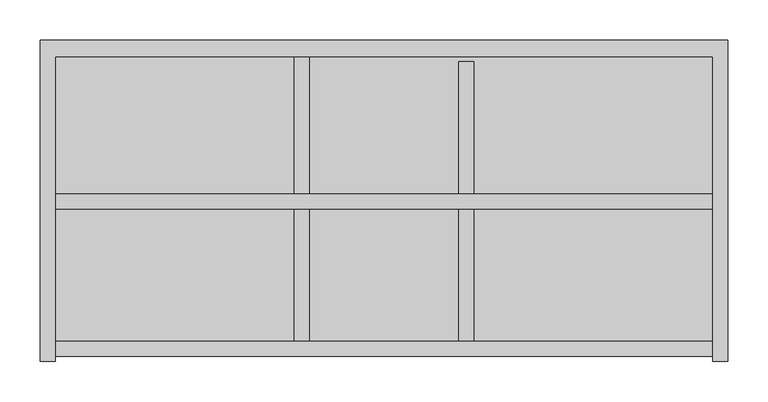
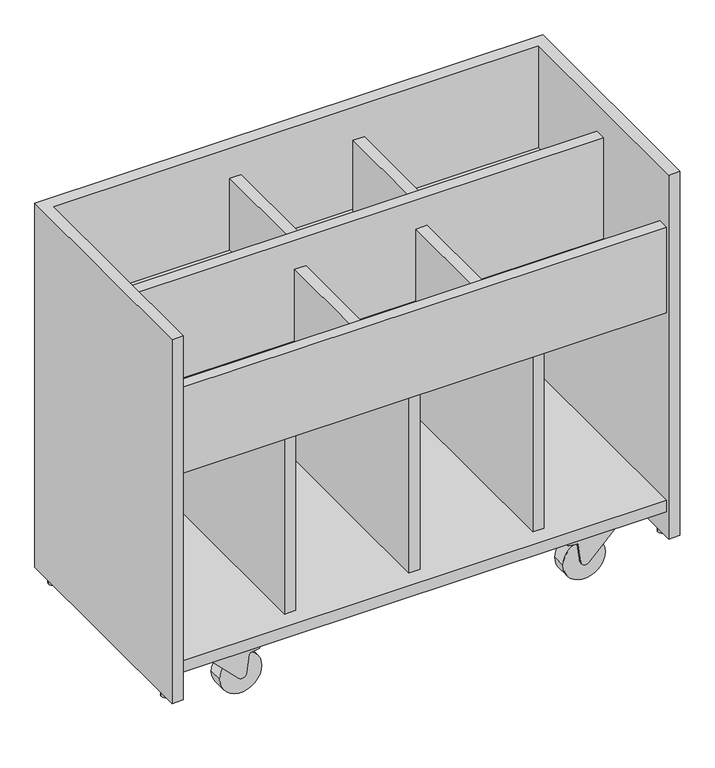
"""IFC4 building model written with IfcOpenShell, lengths in millimetres: furniture geometry, BK Library - Sandviken - Bookbrowser : BK Library - Sandviken - Bookbrowser."""

from ifc_helpers import new_model, si_unit, point, frame, frame_2d, origin, place, context, project, spatial, polyline, circle_curve, trimmed, segment, composite_curve, outline, extrude, faceted_brep, source, transform, mapped, element, save


def furniture_dce0b0f9(model_context):
    return source(origin(), model_context, "Body", "SolidModel", [
        extrude(outline(composite_curve([segment(trimmed(circle_curve(frame_2d((-419.5139404, -164.9857086)), 7.4880908), [point((-427.0020311, -164.9857086))], [point((-412.0258496, -164.9857086))], False, "CARTESIAN"), True, "CONTINUOUS"), segment(trimmed(circle_curve(frame_2d((-419.5139404, -164.9857086)), 7.4880908), [point((-412.0258496, -164.9857086))], [point((-427.0020311, -164.9857086))], False, "CARTESIAN"), True, "CONTINUOUS")], self_intersect=False)), frame((0.0, 0.0, 43.9690337), z_axis=(0.0, 0.0, 1.0), x_axis=(1.0, 0.0, 0.0)), (0.0, 0.0, 1.0), 8.5),
        extrude(outline(composite_curve([segment(trimmed(circle_curve(frame_2d((419.5139404, -164.9857086)), 7.4880908), [point((412.0258496, -164.9857086))], [point((427.0020311, -164.9857086))], False, "CARTESIAN"), True, "CONTINUOUS"), segment(trimmed(circle_curve(frame_2d((419.5139404, -164.9857086)), 7.4880908), [point((427.0020311, -164.9857086))], [point((412.0258496, -164.9857086))], False, "CARTESIAN"), True, "CONTINUOUS")], self_intersect=False)), frame((0.0, 0.0, 43.9690337), z_axis=(0.0, 0.0, 1.0), x_axis=(1.0, 0.0, 0.0)), (0.0, 0.0, 1.0), 8.5),
        extrude(outline(composite_curve([segment(trimmed(circle_curve(frame_2d((-419.5139404, 164.9857086)), 7.4880908), [point((-427.0020311, 164.9857086))], [point((-412.0258496, 164.9857086))], False, "CARTESIAN"), True, "CONTINUOUS"), segment(trimmed(circle_curve(frame_2d((-419.5139404, 164.9857086)), 7.4880908), [point((-412.0258496, 164.9857086))], [point((-427.0020311, 164.9857086))], False, "CARTESIAN"), True, "CONTINUOUS")], self_intersect=False)), frame((0.0, 0.0, 43.9690337), z_axis=(0.0, 0.0, 1.0), x_axis=(1.0, 0.0, 0.0)), (0.0, 0.0, 1.0), 8.5),
        extrude(outline(composite_curve([segment(trimmed(circle_curve(frame_2d((419.5139404, 164.9857086)), 7.4880908), [point((412.0258496, 164.9857086))], [point((427.0020311, 164.9857086))], False, "CARTESIAN"), True, "CONTINUOUS"), segment(trimmed(circle_curve(frame_2d((419.5139404, 164.9857086)), 7.4880908), [point((427.0020311, 164.9857086))], [point((412.0258496, 164.9857086))], False, "CARTESIAN"), True, "CONTINUOUS")], self_intersect=False)), frame((0.0, 0.0, 43.9690337), z_axis=(0.0, 0.0, 1.0), x_axis=(1.0, 0.0, 0.0)), (0.0, 0.0, 1.0), 8.5),
        extrude(outline(composite_curve([segment(trimmed(circle_curve(frame_2d((-325.2477132, 148.3932813)), 12.5248147), [point((-337.7725279, 148.3932813))], [point((-312.7228985, 148.3932813))], False, "CARTESIAN"), True, "CONTINUOUS"), segment(trimmed(circle_curve(frame_2d((-325.2477132, 148.3932813)), 12.5248147), [point((-312.7228985, 148.3932813))], [point((-337.7725279, 148.3932813))], False, "CARTESIAN"), True, "CONTINUOUS")], self_intersect=False)), frame((0.0, 0.0, 87.7), z_axis=(0.0, 0.0, 1.0), x_axis=(1.0, 0.0, 0.0)), (0.0, 0.0, 1.0), 9.3),
        extrude(outline(composite_curve([segment(polyline([(72.665374, -260.3370102), (88.2, -260.3370102), (88.2, -346.8355235), (80.4985188, -346.8355235), (29.8327739, -295.9834735)]), True, "CONTINUOUS"), segment(trimmed(circle_curve(frame_2d((35.5, -290.3370102)), 8.0), [point((29.8327739, -295.9834735))], [point((34.4278369, -282.4091816))], False, "CARTESIAN"), True, "CONTINUOUS"), segment(polyline([(34.4278369, -282.4091816), (66.4454242, -278.0791088)]), True, "CONTINUOUS"), segment(trimmed(circle_curve(frame_2d((66.1773834, -276.0971516)), 2.0), [point((66.4454242, -278.0791088))], [point((68.1469989, -276.444448))], True, "CARTESIAN"), True, "CONTINUOUS"), segment(polyline([(68.1469989, -276.444448), (70.6957585, -261.9897138)]), True, "CONTINUOUS"), segment(trimmed(circle_curve(frame_2d((72.665374, -262.3370102)), 2.0), [point((70.6957585, -261.9897138))], [point((72.665374, -260.3370102))], False, "CARTESIAN"), True, "CONTINUOUS")], self_intersect=False)), frame((0.0, 132.3464324, 0.0), z_axis=(0.0, 1.0, 0.0), x_axis=(0.0, 0.0, 1.0)), (0.0, 0.0, 1.0), 32.0),
        extrude(outline(composite_curve([segment(trimmed(circle_curve(frame_2d((35.6872146, -290.2334387)), 35.6947525), [point((35.6872146, -254.5386862))], [point((35.6872146, -325.9281911))], False, "CARTESIAN"), True, "CONTINUOUS"), segment(trimmed(circle_curve(frame_2d((35.6872146, -290.2334387)), 35.6947525), [point((35.6872146, -325.9281911))], [point((35.6872146, -254.5386862))], False, "CARTESIAN"), True, "CONTINUOUS")], self_intersect=False)), frame((0.0, 136.3464324, 0.0), z_axis=(0.0, 1.0, 0.0), x_axis=(0.0, 0.0, 1.0)), (0.0, 0.0, 1.0), 24.0),
        extrude(outline(composite_curve([segment(trimmed(circle_curve(frame_2d((325.2477132, 148.3932813)), 12.5248147), [point((337.7725279, 148.3932813))], [point((312.7228985, 148.3932813))], False, "CARTESIAN"), True, "CONTINUOUS"), segment(trimmed(circle_curve(frame_2d((325.2477132, 148.3932813)), 12.5248147), [point((312.7228985, 148.3932813))], [point((337.7725279, 148.3932813))], False, "CARTESIAN"), True, "CONTINUOUS")], self_intersect=False)), frame((0.0, 0.0, 87.7), z_axis=(0.0, 0.0, 1.0), x_axis=(1.0, 0.0, 0.0)), (0.0, 0.0, 1.0), 9.3),
        extrude(outline(composite_curve([segment(trimmed(circle_curve(frame_2d((72.665374, 262.3370102)), 2.0), [point((72.665374, 260.3370102))], [point((70.6957585, 261.9897138))], False, "CARTESIAN"), True, "CONTINUOUS"), segment(polyline([(70.6957585, 261.9897138), (68.1469989, 276.444448)]), True, "CONTINUOUS"), segment(trimmed(circle_curve(frame_2d((66.1773834, 276.0971516)), 2.0), [point((68.1469989, 276.444448))], [point((66.4454242, 278.0791088))], True, "CARTESIAN"), True, "CONTINUOUS"), segment(polyline([(66.4454242, 278.0791088), (34.4278369, 282.4091816)]), True, "CONTINUOUS"), segment(trimmed(circle_curve(frame_2d((35.5, 290.3370102)), 8.0), [point((34.4278369, 282.4091816))], [point((29.8327739, 295.9834735))], False, "CARTESIAN"), True, "CONTINUOUS"), segment(polyline([(29.8327739, 295.9834735), (80.4985188, 346.8355235), (88.2, 346.8355235), (88.2, 260.3370102), (72.665374, 260.3370102)]), True, "CONTINUOUS")], self_intersect=False)), frame((0.0, 132.3464324, 0.0), z_axis=(0.0, 1.0, 0.0), x_axis=(0.0, 0.0, 1.0)), (0.0, 0.0, 1.0), 32.0),
        extrude(outline(composite_curve([segment(trimmed(circle_curve(frame_2d((35.6872146, 290.2334387)), 35.6947525), [point((35.6872146, 254.5386862))], [point((35.6872146, 325.9281911))], False, "CARTESIAN"), True, "CONTINUOUS"), segment(trimmed(circle_curve(frame_2d((35.6872146, 290.2334387)), 35.6947525), [point((35.6872146, 325.9281911))], [point((35.6872146, 254.5386862))], False, "CARTESIAN"), True, "CONTINUOUS")], self_intersect=False)), frame((0.0, 136.3464324, 0.0), z_axis=(0.0, 1.0, 0.0), x_axis=(0.0, 0.0, 1.0)), (0.0, 0.0, 1.0), 24.0),
        extrude(outline(composite_curve([segment(trimmed(circle_curve(frame_2d((325.2477132, -148.3932813)), 12.5248147), [point((337.7725279, -148.3932813))], [point((312.7228985, -148.3932813))], False, "CARTESIAN"), True, "CONTINUOUS"), segment(trimmed(circle_curve(frame_2d((325.2477132, -148.3932813)), 12.5248147), [point((312.7228985, -148.3932813))], [point((337.7725279, -148.3932813))], False, "CARTESIAN"), True, "CONTINUOUS")], self_intersect=False)), frame((0.0, 0.0, 87.7), z_axis=(0.0, 0.0, 1.0), x_axis=(1.0, 0.0, 0.0)), (0.0, 0.0, 1.0), 9.3),
        extrude(outline(composite_curve([segment(trimmed(circle_curve(frame_2d((72.665374, 262.3370102)), 2.0), [point((72.665374, 260.3370102))], [point((70.6957585, 261.9897138))], False, "CARTESIAN"), True, "CONTINUOUS"), segment(polyline([(70.6957585, 261.9897138), (68.1469989, 276.444448)]), True, "CONTINUOUS"), segment(trimmed(circle_curve(frame_2d((66.1773834, 276.0971516)), 2.0), [point((68.1469989, 276.444448))], [point((66.4454242, 278.0791088))], True, "CARTESIAN"), True, "CONTINUOUS"), segment(polyline([(66.4454242, 278.0791088), (34.4278369, 282.4091816)]), True, "CONTINUOUS"), segment(trimmed(circle_curve(frame_2d((35.5, 290.3370102)), 8.0), [point((34.4278369, 282.4091816))], [point((29.8327739, 295.9834735))], False, "CARTESIAN"), True, "CONTINUOUS"), segment(polyline([(29.8327739, 295.9834735), (80.4985188, 346.8355235), (88.2, 346.8355235), (88.2, 260.3370102), (72.665374, 260.3370102)]), True, "CONTINUOUS")], self_intersect=False)), frame((0.0, -164.3464324, 0.0), z_axis=(0.0, 1.0, 0.0), x_axis=(0.0, 0.0, 1.0)), (0.0, 0.0, 1.0), 32.0),
        extrude(outline(composite_curve([segment(trimmed(circle_curve(frame_2d((35.6872146, 290.2334387)), 35.6947525), [point((35.6872146, 254.5386862))], [point((35.6872146, 325.9281911))], False, "CARTESIAN"), True, "CONTINUOUS"), segment(trimmed(circle_curve(frame_2d((35.6872146, 290.2334387)), 35.6947525), [point((35.6872146, 325.9281911))], [point((35.6872146, 254.5386862))], False, "CARTESIAN"), True, "CONTINUOUS")], self_intersect=False)), frame((0.0, -160.3464324, 0.0), z_axis=(0.0, 1.0, 0.0), x_axis=(0.0, 0.0, 1.0)), (0.0, 0.0, 1.0), 24.0),
        extrude(outline(polyline([(-200.25, 180.5), (-200.25, -165.5), (-219.25, -165.5), (-219.25, 180.5), (-200.25, 180.5)])), frame((0.0, 0.0, 117.9690337), z_axis=(0.0, 0.0, 1.0), x_axis=(1.0, 0.0, 0.0)), (0.0, 0.0, 1.0), 334.5),
        extrude(outline(polyline([(9.5, -165.5), (-9.5, -165.5), (-9.5, 180.5), (9.5, 180.5), (9.5, -165.5)])), frame((0.0, 0.0, 117.9690337), z_axis=(0.0, 0.0, 1.0), x_axis=(1.0, 0.0, 0.0)), (0.0, 0.0, 1.0), 334.5),
        extrude(outline(polyline([(219.25, -165.5), (200.25, -165.5), (200.25, 180.5), (219.25, 180.5), (219.25, -165.5)])), frame((0.0, 0.0, 117.9690337), z_axis=(0.0, 0.0, 1.0), x_axis=(1.0, 0.0, 0.0)), (0.0, 0.0, 1.0), 334.5),
        extrude(outline(polyline([(-93.0, 180.5), (-93.0, 9.5), (-112.0, 9.5), (-112.0, 180.5), (-93.0, 180.5)])), frame((0.0, 0.0, 520.4690337), z_axis=(0.0, 0.0, 1.0), x_axis=(1.0, 0.0, 0.0)), (0.0, 0.0, 1.0), 128.0),
        extrude(outline(polyline([(112.0, 9.5), (93.0, 9.5), (93.0, 174.5), (112.0, 174.5), (112.0, 9.5)])), frame((0.0, 0.0, 520.4690337), z_axis=(0.0, 0.0, 1.0), x_axis=(1.0, 0.0, 0.0)), (0.0, 0.0, 1.0), 128.0),
        extrude(outline(polyline([(-93.0, -9.5), (-93.0, -174.5), (-112.0, -174.5), (-112.0, -9.5), (-93.0, -9.5)])), frame((0.0, 0.0, 473.4690337), z_axis=(0.0, 0.0, 1.0), x_axis=(1.0, 0.0, 0.0)), (0.0, 0.0, 1.0), 128.0),
        extrude(outline(polyline([(112.0, -174.5), (93.0, -174.5), (93.0, -9.5), (112.0, -9.5), (112.0, -174.5)])), frame((0.0, 0.0, 473.4690337), z_axis=(0.0, 0.0, 1.0), x_axis=(1.0, 0.0, 0.0)), (0.0, 0.0, 1.0), 128.0),
        extrude(outline(composite_curve([segment(trimmed(circle_curve(frame_2d((-325.2477132, -148.3932813)), 12.5248147), [point((-337.7725279, -148.3932813))], [point((-312.7228985, -148.3932813))], False, "CARTESIAN"), True, "CONTINUOUS"), segment(trimmed(circle_curve(frame_2d((-325.2477132, -148.3932813)), 12.5248147), [point((-312.7228985, -148.3932813))], [point((-337.7725279, -148.3932813))], False, "CARTESIAN"), True, "CONTINUOUS")], self_intersect=False)), frame((0.0, 0.0, 87.7), z_axis=(0.0, 0.0, 1.0), x_axis=(1.0, 0.0, 0.0)), (0.0, 0.0, 1.0), 9.3),
        extrude(outline(composite_curve([segment(polyline([(72.665374, -260.3370102), (88.2, -260.3370102), (88.2, -346.8355235), (80.4985188, -346.8355235), (29.8327739, -295.9834735)]), True, "CONTINUOUS"), segment(trimmed(circle_curve(frame_2d((35.5, -290.3370102)), 8.0), [point((29.8327739, -295.9834735))], [point((34.4278369, -282.4091816))], False, "CARTESIAN"), True, "CONTINUOUS"), segment(polyline([(34.4278369, -282.4091816), (66.4454242, -278.0791088)]), True, "CONTINUOUS"), segment(trimmed(circle_curve(frame_2d((66.1773834, -276.0971516)), 2.0), [point((66.4454242, -278.0791088))], [point((68.1469989, -276.444448))], True, "CARTESIAN"), True, "CONTINUOUS"), segment(polyline([(68.1469989, -276.444448), (70.6957585, -261.9897138)]), True, "CONTINUOUS"), segment(trimmed(circle_curve(frame_2d((72.665374, -262.3370102)), 2.0), [point((70.6957585, -261.9897138))], [point((72.665374, -260.3370102))], False, "CARTESIAN"), True, "CONTINUOUS")], self_intersect=False)), frame((0.0, -164.3464324, 0.0), z_axis=(0.0, 1.0, 0.0), x_axis=(0.0, 0.0, 1.0)), (0.0, 0.0, 1.0), 32.0),
        extrude(outline(composite_curve([segment(trimmed(circle_curve(frame_2d((35.6872146, -290.2334387)), 35.6947525), [point((35.6872146, -254.5386862))], [point((35.6872146, -325.9281911))], False, "CARTESIAN"), True, "CONTINUOUS"), segment(trimmed(circle_curve(frame_2d((35.6872146, -290.2334387)), 35.6947525), [point((35.6872146, -325.9281911))], [point((35.6872146, -254.5386862))], False, "CARTESIAN"), True, "CONTINUOUS")], self_intersect=False)), frame((0.0, -160.3464324, 0.0), z_axis=(0.0, 1.0, 0.0), x_axis=(0.0, 0.0, 1.0)), (0.0, 0.0, 1.0), 24.0),
        extrude(outline(polyline([(410.0, 180.5), (410.0, -193.5), (-410.0, -193.5), (-410.0, 180.5), (410.0, 180.5)])), frame((0.0, 0.0, 97.0), z_axis=(0.0, 0.0, 1.0), x_axis=(1.0, 0.0, 0.0)), (0.0, 0.0, 1.0), 20.9690337),
        extrude(outline(polyline([(180.5, 454.4690337), (-174.5, 454.4690337), (-174.5, 473.4690337), (-9.5, 473.4690337), (-9.5, 653.4690337), (9.5, 653.4690337), (9.5, 520.4690337), (180.5, 520.4690337), (180.5, 454.4690337)])), frame((-410.0, 0.0, 0.0), z_axis=(1.0, 0.0, 0.0), x_axis=(0.0, 1.0, 0.0)), (0.0, 0.0, 1.0), 820.0),
        faceted_brep([(-410.0, -200.0, 52.4690337), (-410.0, 201.5, 52.4690337), (-410.0, 201.5, 97.0), (-410.0, 180.5, 97.0), (-410.0, 180.5, 702.4690337), (-410.0, -200.0, 702.4690337), (-410.0, -174.5, 605.4690337), (-410.0, -174.5, 452.4690337), (-410.0, -193.5, 452.4690337), (-410.0, -193.5, 605.4690337), (-429.0, -200.0, 52.4690337), (-429.0, -200.0, 702.4690337), (-429.0, 201.5, 702.4690337), (-429.0, 201.5, 52.4690337), (429.0, 201.5, 702.4690337), (429.0, 201.5, 52.4690337), (410.0, 201.5, 52.4690337), (410.0, 201.5, 97.0), (410.0, 180.5, 702.4690337), (410.0, -200.0, 702.4690337), (429.0, -200.0, 702.4690337), (410.0, 180.5, 97.0), (410.0, -174.5, 452.4690337), (410.0, -174.5, 605.4690337), (410.0, -193.5, 605.4690337), (410.0, -193.5, 452.4690337), (410.0, -200.0, 52.4690337), (429.0, -200.0, 52.4690337)], [[[0, 1, 2, 3, 4, 5], [6, 7, 8, 9]], [[10, 11, 12, 13]], [[1, 0, 10, 13]], [[13, 12, 14, 15, 16, 17, 2, 1]], [[14, 12, 11, 5, 4, 18, 19, 20]], [[0, 5, 11, 10]], [[18, 4, 3, 21]], [[21, 3, 2, 17]], [[22, 7, 6, 23]], [[23, 6, 9, 24]], [[24, 9, 8, 25]], [[7, 22, 25, 8]], [[26, 19, 18, 21, 17, 16], [22, 23, 24, 25]], [[27, 15, 14, 20]], [[26, 16, 15, 27]], [[19, 26, 27, 20]]]),
    ])


if __name__ == "__main__":
    model = new_model("IFC4")
    model_context = context("Model", 3, world=origin())
    ifc_project = project(units=[si_unit("LENGTHUNIT", "METRE", prefix="MILLI")], contexts=[model_context])
    site = spatial("IfcSite", under=ifc_project)
    building = spatial("IfcBuilding", under=site)
    placement = place(None, origin())
    furniture_shape = furniture_dce0b0f9(model_context)
    element("IfcFurniture", 1, ObjectType="BK Library - Sandviken - Bookbrowser : BK Library - Sandviken - Bookbrowser", at=placement, inside=building, context=model_context, shape_type="MappedRepresentation", body=[
        mapped(furniture_shape, transform((0.0, 0.0, 0.0), x_axis=(1.0, 0.0, 0.0), y_axis=(0.0, 1.0, 0.0), z_axis=(0.0, 0.0, 1.0))),
    ])
    save(model, "model.ifc")
